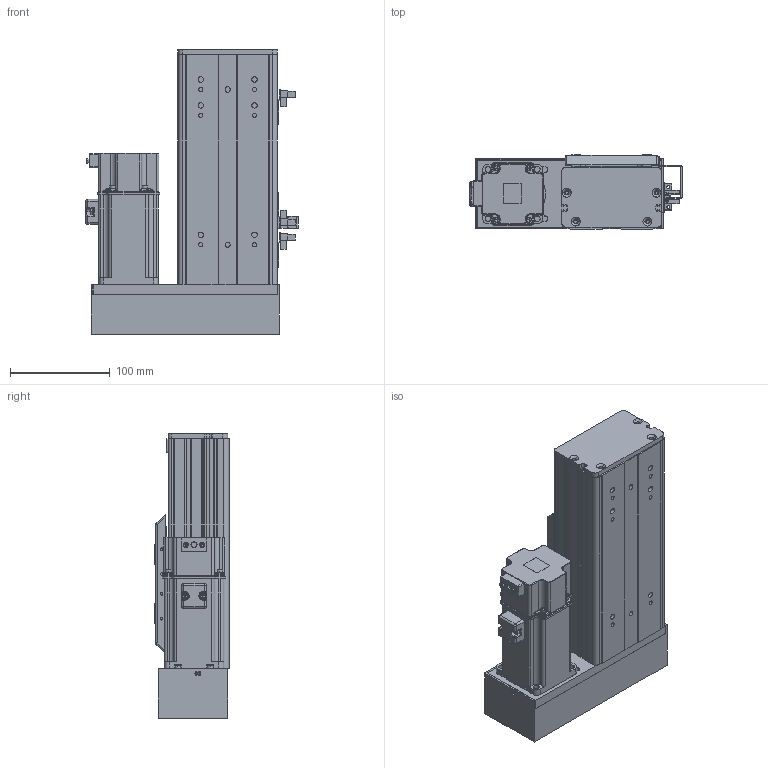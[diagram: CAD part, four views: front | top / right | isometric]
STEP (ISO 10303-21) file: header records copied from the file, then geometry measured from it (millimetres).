
FILE_DESCRIPTION (( 'STEP AP203' ), '1' );
FILE_NAME ('BOSW100-50-1610-1P-RM-M400W-O-S3（方程式2016）.step', '2020-10-10T07:02:10', ( '' ), ( '' ), 'SwSTEP 2.0', 'SolidWorks 2016', '' );
FILE_SCHEMA (( 'CONFIG_CONTROL_DESIGN' ));
Length unit declared in the file: millimetre
Products named in the file (14): 放大器内置U型微型光电传感器PM-L65; BOSW&TW-100-1P-賑雄釱欶; BOSW-100-綴裔啣; BOSW&TW-100-俋离覜茼え; AIMS(W)-100-LM&RM-肮祭謫欶; BOSW-100-1P-DM-50諦誧芞; BOSW-100-1P-DM-宽轨-钢带-50客户图纸; BOSW&TW-100-詩湍揤沭(陔賦凳); S400W(SMA-L040); 俋境嫖覜嘐隅啣; boS-100-LM&RM-三菱M400W马达板-宽轨; BOSW100-50-1610-1P-RM-M400W-O-S3（方程式2016）; BOSW-100-1P-DM-宽轨-侧板-50客户图纸; 新结构AIMSW-100-1P-宽&高轨共用-滑动座上组件
Assembly tree (19 placements, depth 2):
  BOSW100-50-1610-1P-RM-M400W-O-S3（方程式2016）
    BOSW-100-1P-DM-50諦誧芞
    BOSW-100-綴裔啣
    新结构AIMSW-100-1P-宽&高轨共用-滑动座上组件
    S400W(SMA-L040)
    BOSW&TW-100-詩湍揤沭(陔賦凳)  x2
    BOSW&TW-100-1P-賑雄釱欶
    BOSW-100-1P-DM-宽轨-侧板-50客户图纸  x2
    BOSW-100-1P-DM-宽轨-钢带-50客户图纸
    AIMS(W)-100-LM&RM-肮祭謫欶
    boS-100-LM&RM-三菱M400W马达板-宽轨
    俋境嫖覜嘐隅啣  x3
    放大器内置U型微型光电传感器PM-L65  x3
    BOSW&TW-100-俋离覜茼え
Bounding box: 213.4 x 75 x 286 mm (x, y, z)
Volume: 881297.3 mm3; surface area: 461416 mm2
Topology: 19 solids, 20 shells, 2479 faces, 6525 edges, 4159 vertices
Faces by surface type: plane 1235, cylinder 758, bspline 271, cone 167, torus 36, sphere 12
Entity records: 67528 total; most frequent: CARTESIAN_POINT 20398, ORIENTED_EDGE 9590, DIRECTION 9255, EDGE_CURVE 4795, AXIS2_PLACEMENT_3D 3259, VERTEX_POINT 3061, LINE 2737, VECTOR 2737
